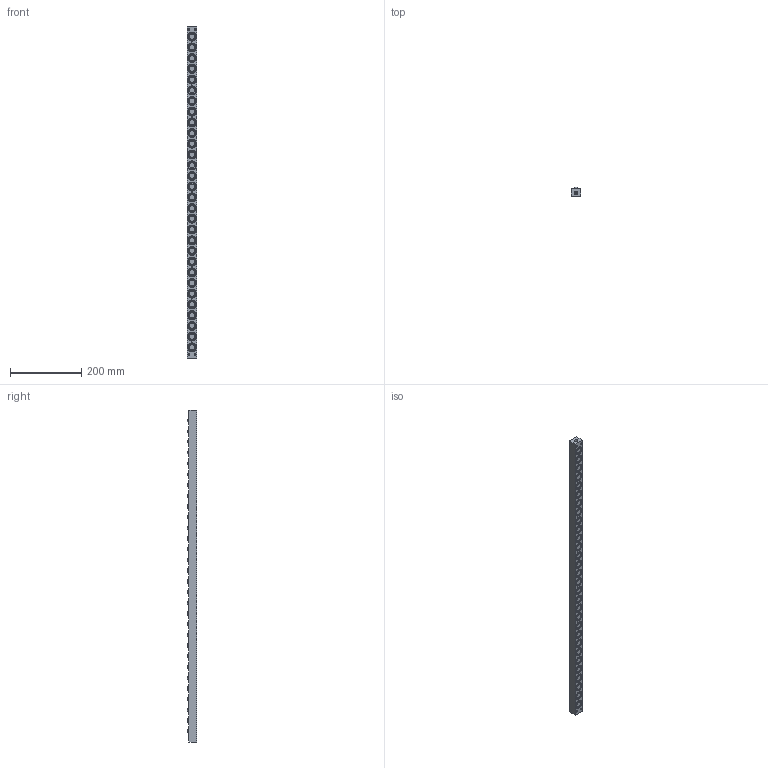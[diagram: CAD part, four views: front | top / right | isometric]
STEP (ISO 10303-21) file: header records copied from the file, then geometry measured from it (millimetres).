
FILE_DESCRIPTION (( 'STEP AP203' ), '1' );
FILE_NAME ('PVL17S-30.STEP', '2016-02-18T04:27:23', ( '' ), ( '' ), 'SwSTEP 2.0', 'SolidWorks 2013', '' );
FILE_SCHEMA (( 'CONFIG_CONTROL_DESIGN' ));
Length unit declared in the file: millimetre
Products named in the file (1): PVL17S-30
Bounding box: 28 x 26 x 930 mm (x, y, z)
Volume: 561982.7 mm3; surface area: 127054.9 mm2
Topology: 1 solids, 1 shells, 963 faces, 2266 edges, 1519 vertices
Faces by surface type: cylinder 618, plane 281, sphere 60, cone 4
Entity records: 28543 total; most frequent: DIRECTION 5612, CARTESIAN_POINT 4747, ORIENTED_EDGE 4528, AXIS2_PLACEMENT_3D 2384, EDGE_CURVE 2264, VERTEX_POINT 1519, CIRCLE 1420, EDGE_LOOP 1187
